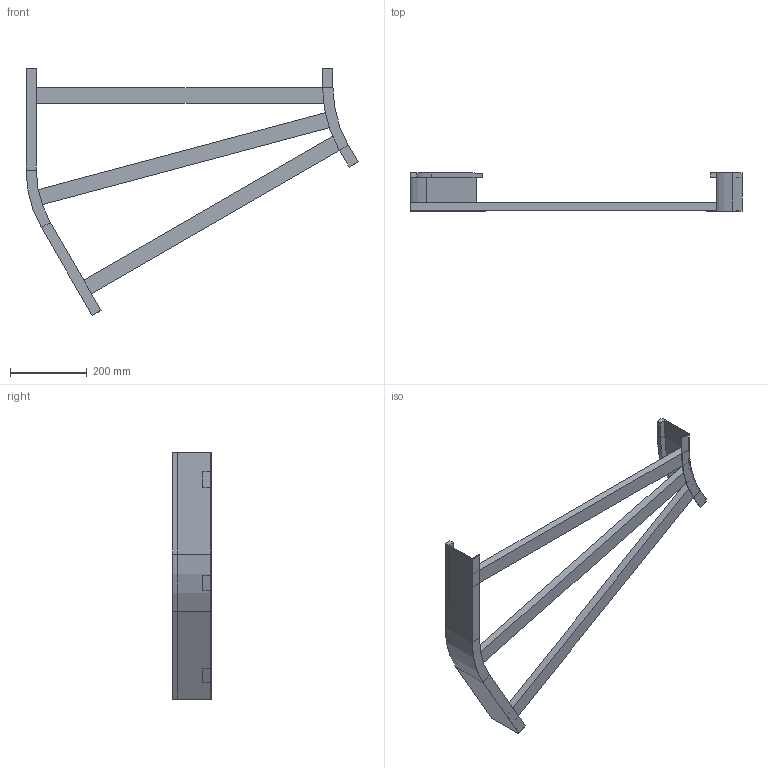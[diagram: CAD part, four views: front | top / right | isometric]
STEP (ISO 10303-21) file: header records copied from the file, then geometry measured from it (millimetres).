
FILE_DESCRIPTION (( 'STEP AP214' ), '1' );
FILE_NAME ('B2_12B3D800.step', '2025-02-21T15:08:03', ( '' ), ( '' ), 'SwSTEP 2.0', 'SolidWorks 2023', '' );
FILE_SCHEMA (( 'AUTOMOTIVE_DESIGN' ));
Length unit declared in the file: millimetre
Products named in the file (5): B2_LONGH.INTERNO 30°_H100_R300; B2_12B3D800; B2_LONGH.ESTERNO 30°_H100_R300+800; TRAVERSINO_800; TRAVERSINO_L823
Assembly tree (5 placements, depth 2):
  B2_12B3D800
    B2_LONGH.INTERNO 30°_H100_R300
    B2_LONGH.ESTERNO 30°_H100_R300+800
    TRAVERSINO_800  x2
    TRAVERSINO_L823
Bounding box: 865.19 x 100 x 643.3 mm (x, y, z)
Volume: 2372902.1 mm3; surface area: 568506.1 mm2
Topology: 5 solids, 5 shells, 70 faces, 148 edges, 88 vertices
Faces by surface type: plane 62, cylinder 8
Entity records: 1822 total; most frequent: DIRECTION 296, CARTESIAN_POINT 288, ORIENTED_EDGE 272, EDGE_CURVE 136, VECTOR 120, LINE 120, AXIS2_PLACEMENT_3D 88, VERTEX_POINT 80
